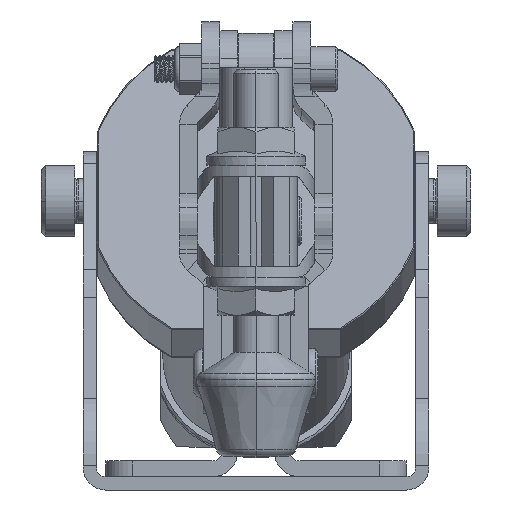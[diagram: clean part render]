
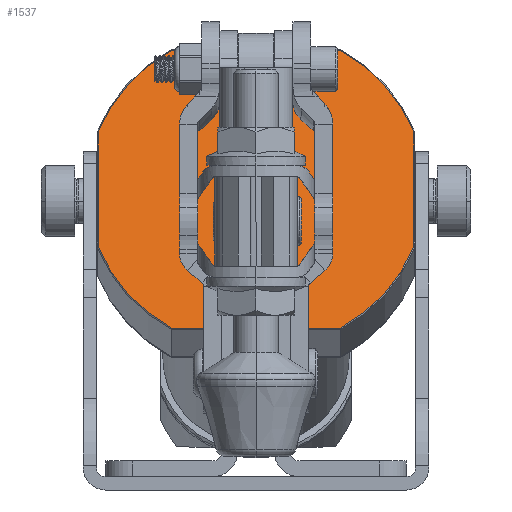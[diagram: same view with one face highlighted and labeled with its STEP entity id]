
A CAD part, left-side view. The second image highlights one B-rep face of the part: STEP entity #1537.
In plain terms, the highlighted planar face has unit normal (-0.947, 0, 0.323).
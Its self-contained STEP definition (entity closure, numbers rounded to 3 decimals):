
#1537=ADVANCED_FACE('',(#3471,#3472),#3473,.T.);
#3471=FACE_BOUND('',#6235,.T.);
#3472=FACE_OUTER_BOUND('',#6236,.T.);
#3473=PLANE('',#6237);
#6235=EDGE_LOOP('',(#13502,#13503));
#6236=EDGE_LOOP('',(#13504,#13505,#13506,#13507,#13508,#13509,#13510,#13511));
#6237=AXIS2_PLACEMENT_3D('',#13512,#13513,#13514);
#13502=ORIENTED_EDGE('',*,*,#21219,.T.);
#13503=ORIENTED_EDGE('',*,*,#21059,.T.);
#13504=ORIENTED_EDGE('',*,*,#21220,.T.);
#13505=ORIENTED_EDGE('',*,*,#21221,.T.);
#13506=ORIENTED_EDGE('',*,*,#21191,.T.);
#13507=ORIENTED_EDGE('',*,*,#21222,.T.);
#13508=ORIENTED_EDGE('',*,*,#21223,.T.);
#13509=ORIENTED_EDGE('',*,*,#21224,.T.);
#13510=ORIENTED_EDGE('',*,*,#21225,.T.);
#13511=ORIENTED_EDGE('',*,*,#21226,.T.);
#13512=CARTESIAN_POINT('',(61.26,0.,67.164));
#13513=DIRECTION('',(-0.947,0.0,0.323));
#13514=DIRECTION('',(0.0,1.0,0.0));
#21059=EDGE_CURVE('',#29163,#29160,#29164,.T.);
#21191=EDGE_CURVE('',#29365,#29366,#29367,.T.);
#21219=EDGE_CURVE('',#29160,#29163,#29409,.T.);
#21220=EDGE_CURVE('',#29410,#29411,#29412,.T.);
#21221=EDGE_CURVE('',#29411,#29365,#29413,.T.);
#21222=EDGE_CURVE('',#29366,#29414,#29415,.T.);
#21223=EDGE_CURVE('',#29414,#29416,#29417,.T.);
#21224=EDGE_CURVE('',#29416,#29418,#29419,.T.);
#21225=EDGE_CURVE('',#29418,#29420,#29421,.T.);
#21226=EDGE_CURVE('',#29420,#29410,#29422,.T.);
#29160=VERTEX_POINT('',#42922);
#29163=VERTEX_POINT('',#42926);
#29164=CIRCLE('',#42927,8.5);
#29365=VERTEX_POINT('',#43233);
#29366=VERTEX_POINT('',#43234);
#29367=CIRCLE('',#43235,37.75);
#29409=CIRCLE('',#43295,8.5);
#29410=VERTEX_POINT('',#43296);
#29411=VERTEX_POINT('',#43297);
#29412=CIRCLE('',#43298,37.75);
#29413=LINE('',#43299,#43300);
#29414=VERTEX_POINT('',#43301);
#29415=LINE('',#43302,#43303);
#29416=VERTEX_POINT('',#43304);
#29417=CIRCLE('',#43305,37.75);
#29418=VERTEX_POINT('',#43306);
#29419=LINE('',#43307,#43308);
#29420=VERTEX_POINT('',#43309);
#29421=CIRCLE('',#43310,37.75);
#29422=LINE('',#43311,#43312);
#42922=CARTESIAN_POINT('',(58.519,0.,59.118));
#42926=CARTESIAN_POINT('',(64.002,0.,75.209));
#42927=AXIS2_PLACEMENT_3D('',#68232,#68233,#68234);
#43233=CARTESIAN_POINT('',(50.697,-18.775,36.164));
#43234=CARTESIAN_POINT('',(56.903,-35.25,54.376));
#43235=AXIS2_PLACEMENT_3D('',#68400,#68401,#68402);
#43295=AXIS2_PLACEMENT_3D('',#68437,#68438,#68439);
#43296=CARTESIAN_POINT('',(56.903,35.25,54.376));
#43297=CARTESIAN_POINT('',(50.697,18.775,36.164));
#43298=AXIS2_PLACEMENT_3D('',#68440,#68441,#68442);
#43299=CARTESIAN_POINT('',(50.697,-18.332,36.164));
#43300=VECTOR('',#68443,1.0);
#43301=CARTESIAN_POINT('',(65.617,-35.25,79.951));
#43302=CARTESIAN_POINT('',(65.632,-35.25,79.995));
#43303=VECTOR('',#68444,1.0);
#43304=CARTESIAN_POINT('',(71.823,-18.775,98.163));
#43305=AXIS2_PLACEMENT_3D('',#68445,#68446,#68447);
#43306=CARTESIAN_POINT('',(71.823,18.775,98.163));
#43307=CARTESIAN_POINT('',(71.823,18.841,98.163));
#43308=VECTOR('',#68448,1.0);
#43309=CARTESIAN_POINT('',(65.617,35.25,79.951));
#43310=AXIS2_PLACEMENT_3D('',#68449,#68450,#68451);
#43311=CARTESIAN_POINT('',(56.888,35.25,54.333));
#43312=VECTOR('',#68452,1.0);
#68232=CARTESIAN_POINT('',(61.26,0.,67.164));
#68233=DIRECTION('',(0.947,0.0,-0.323));
#68234=DIRECTION('',(-0.323,0.0,-0.947));
#68400=CARTESIAN_POINT('',(61.26,0.,67.164));
#68401=DIRECTION('',(-0.947,0.0,0.323));
#68402=DIRECTION('',(0.323,0.0,0.947));
#68437=CARTESIAN_POINT('',(61.26,0.,67.164));
#68438=DIRECTION('',(0.947,0.0,-0.323));
#68439=DIRECTION('',(-0.323,0.0,-0.947));
#68440=CARTESIAN_POINT('',(61.26,0.,67.164));
#68441=DIRECTION('',(-0.947,0.0,0.323));
#68442=DIRECTION('',(0.323,0.0,0.947));
#68443=DIRECTION('',(0.,-1.0,0.));
#68444=DIRECTION('',(0.323,0.,0.947));
#68445=CARTESIAN_POINT('',(61.26,0.,67.164));
#68446=DIRECTION('',(-0.947,0.0,0.323));
#68447=DIRECTION('',(0.323,0.0,0.947));
#68448=DIRECTION('',(0.0,1.0,0.0));
#68449=CARTESIAN_POINT('',(61.26,0.,67.164));
#68450=DIRECTION('',(-0.947,0.0,0.323));
#68451=DIRECTION('',(0.323,0.0,0.947));
#68452=DIRECTION('',(-0.323,0.0,-0.947));
